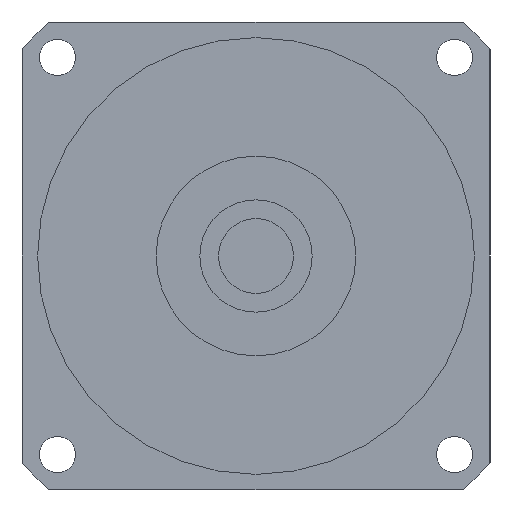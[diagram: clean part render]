
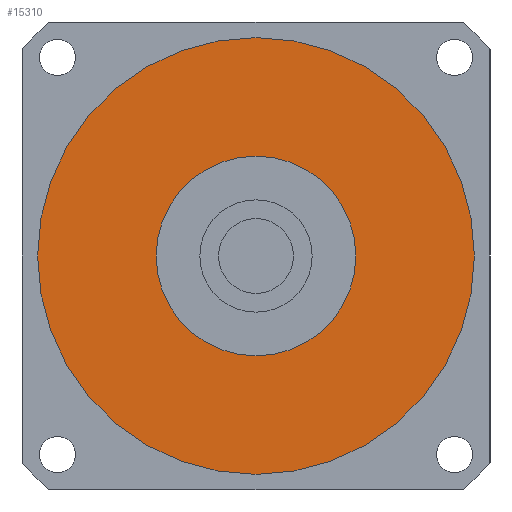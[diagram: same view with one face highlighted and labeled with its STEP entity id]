
A CAD part, left-side view. The second image highlights one B-rep face of the part: STEP entity #15310.
In plain terms, the highlighted planar face has unit normal (-1, 0, 0) as drawn and (0, 0, -1) by its records, which use the part's own axes.
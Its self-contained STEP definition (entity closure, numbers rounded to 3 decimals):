
#14730=CARTESIAN_POINT('',(35.,0.,-33.6));
#14740=VERTEX_POINT('',#14730);
#14830=CARTESIAN_POINT('',(-35.,0.,-33.6));
#14840=VERTEX_POINT('',#14830);
#14870=CARTESIAN_POINT('',(0.,0.,
-33.6));
#14880=DIRECTION('',(0.,0.,1.));
#14890=DIRECTION('',(0.,1.,0.));
#14900=AXIS2_PLACEMENT_3D('',#14870,#14880,#14890);
#14910=CIRCLE('',#14900,35.);
#14920=CARTESIAN_POINT('',(0.,35.,-33.6));
#14930=VERTEX_POINT('',#14920);
#14940=EDGE_CURVE('',#14930,#14840,#14910,.T.);
#14960=EDGE_CURVE('',#14740,#14930,#14910,.T.);
#15010=CARTESIAN_POINT('',(0.,0.,
-33.6));
#15020=DIRECTION('',(0.,0.,1.));
#15030=DIRECTION('',(-1.,0.,0.));
#15040=AXIS2_PLACEMENT_3D('',#15010,#15020,#15030);
#15050=PLANE('',#15040);
#15060=ORIENTED_EDGE('',*,*,#14940,.F.);
#15070=EDGE_CURVE('',#14840,#14740,#14910,.T.);
#15080=ORIENTED_EDGE('',*,*,#15070,.F.);
#15090=ORIENTED_EDGE('',*,*,#14960,.F.);
#15100=EDGE_LOOP('',(#15090,#15080,#15060));
#15110=FACE_OUTER_BOUND('',#15100,.T.);
#15120=CARTESIAN_POINT('',(0.,0.,
-33.6));
#15130=DIRECTION('',(0.,0.,1.));
#15140=DIRECTION('',(0.,1.,0.));
#15150=AXIS2_PLACEMENT_3D('',#15120,#15130,#15140);
#15160=CIRCLE('',#15150,16.);
#15170=CARTESIAN_POINT('',(-16.,0.,-33.6));
#15180=VERTEX_POINT('',#15170);
#15190=CARTESIAN_POINT('',(16.,0.,-33.6));
#15200=VERTEX_POINT('',#15190);
#15210=EDGE_CURVE('',#15180,#15200,#15160,.T.);
#15220=ORIENTED_EDGE('',*,*,#15210,.T.);
#15230=CARTESIAN_POINT('',(0.,16.,-33.6));
#15240=VERTEX_POINT('',#15230);
#15250=EDGE_CURVE('',#15240,#15180,#15160,.T.);
#15260=ORIENTED_EDGE('',*,*,#15250,.T.);
#15270=EDGE_CURVE('',#15200,#15240,#15160,.T.);
#15280=ORIENTED_EDGE('',*,*,#15270,.T.);
#15290=EDGE_LOOP('',(#15280,#15260,#15220));
#15300=FACE_BOUND('',#15290,.T.);
#15310=ADVANCED_FACE('',(#15110,#15300),#15050,.F.);
